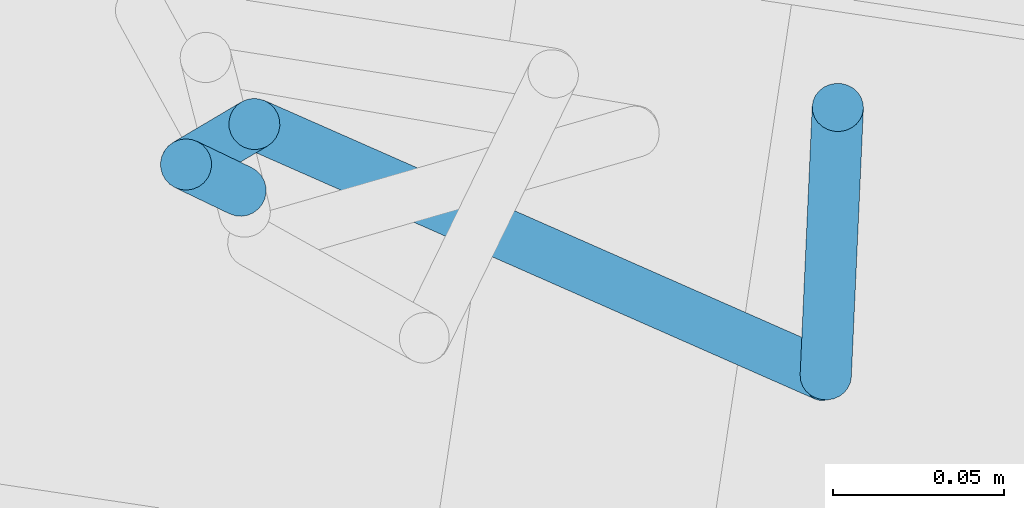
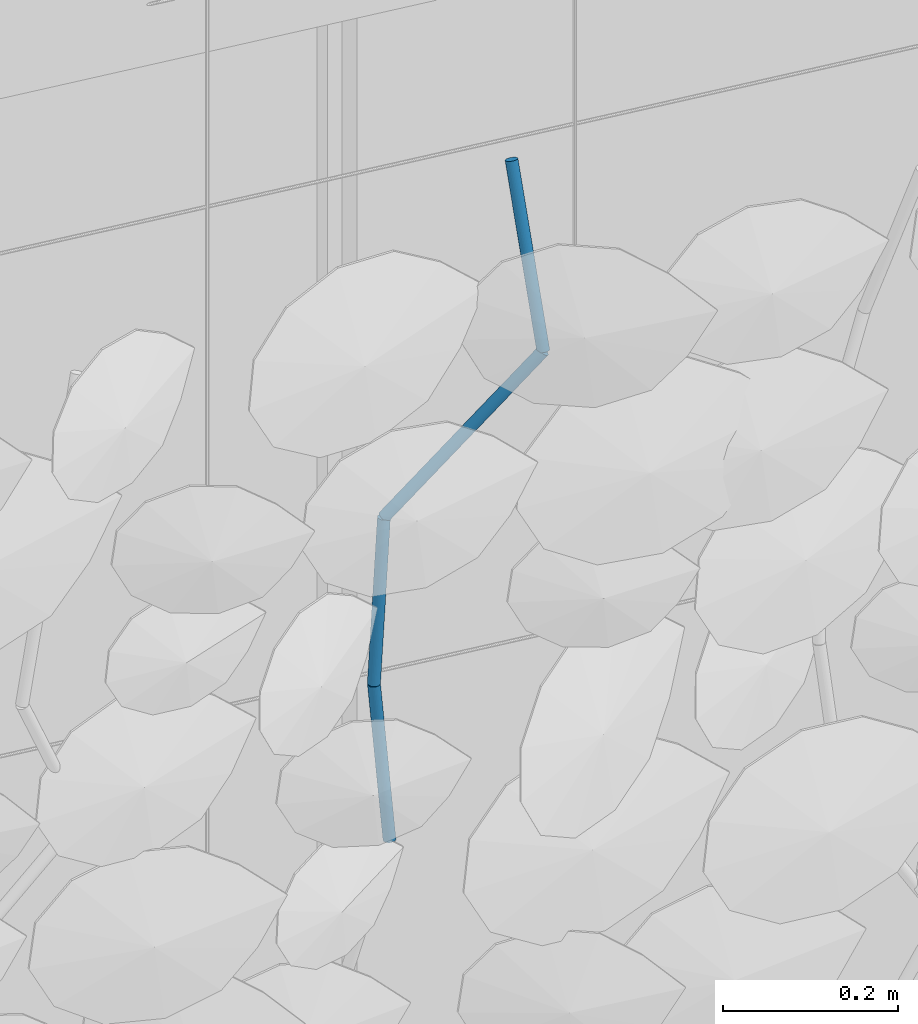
# One storey, part 115 of 131: 4 members, 1 element without a shape of its own.
"""IFC4 building model written with IfcOpenShell, lengths in metres."""

from ifc_helpers import new_model, si_unit, direction, frame, origin_with_axes, place, context, subcontext, project, spatial, circle, extrude, material, material_profile, profile_set, profile_usage, type_object, element, aggregate, save


model = new_model("IFC4")

# Units and contexts
model_context = context("Model", 3, precision=1e-05, world=origin_with_axes(), true_north=direction((0.0, 1.0)))
body_context = subcontext(model_context, "Body", "Model", "MODEL_VIEW")
ifc_project = project(units=[si_unit("VOLUMEUNIT", "CUBIC_METRE"), si_unit("LENGTHUNIT", "METRE"), si_unit("AREAUNIT", "SQUARE_METRE")], contexts=[model_context])

# Site, building, storey
site_placement = place(None, origin_with_axes())
site = spatial("IfcSite", under=ifc_project, at=site_placement, Name="Lares · Rua das Mercês · artigo 4771")
building_placement = place(site_placement, frame((15.0, 9.7, 15.8), z_axis=(0.0, 0.0, 1.0), x_axis=(0.989015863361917, -0.147809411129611, 0.0)))
building = spatial("IfcBuilding", under=site, at=building_placement, Name="Casa Sobreposta")
storey_placement = place(building_placement, origin_with_axes())
storey = spatial("IfcBuildingStorey", under=building, at=storey_placement, Name="00 · Habitação e estacionamento", Elevation=15.8)

# Assembly, members
assembly_placement = place(storey_placement, origin_with_axes())
assembly = element("IfcElementAssembly", 1, at=assembly_placement, inside=storey, Name="Fachada sul e pátio · estrutura e trepadeiras", ObjectType="LIVING_SHADE_TRELLIS", PredefinedType="USERDEFINED")
ifc_material = material(Name="Ramos de trepadeiras", Category="wood")
ifc_material_profile = material_profile(ifc_material, circle(Radius=0.0075))
ifc_profile_set = profile_set([ifc_material_profile], Name="D0.015")
ifc_profile_usage_1 = profile_usage(ifc_profile_set)
member_type = type_object("IfcMemberType", Name="D0.015 / vine_wood", PredefinedType="NOTDEFINED", material=ifc_profile_set)
member_1_placement = place(assembly_placement, frame((17.5916188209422, -1.68966029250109, 1.87253742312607), z_axis=(-0.0775005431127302, 0.0239215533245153, 0.99670528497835), x_axis=(0.294933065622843, 0.955517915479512, 0.0)))
member_1 = element("IfcMember", 2, at=member_1_placement, type_object=member_type, material=ifc_profile_usage_1, Name="Trepadeiras · ramo", context=body_context, shape_type="SweptSolid", body=[
    extrude(circle(Radius=0.0075), origin_with_axes(), (0.0, 0.0, 1.0), 0.218224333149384),
])
ifc_profile_usage_2 = profile_usage(ifc_profile_set)
member_2_placement = place(assembly_placement, frame((17.5747063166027, -1.68444002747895, 2.09004276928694), z_axis=(0.0824483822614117, 0.0670622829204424, 0.994336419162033), x_axis=(0.631006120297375, -0.775777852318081, 0.0)))
member_2 = element("IfcMember", 3, at=member_2_placement, type_object=member_type, material=ifc_profile_usage_2, Name="Trepadeiras · ramo", context=body_context, shape_type="SweptSolid", body=[
    extrude(circle(Radius=0.0075), origin_with_axes(), (0.0, 0.0, 1.0), 0.21874422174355),
])
ifc_profile_usage_3 = profile_usage(ifc_profile_set)
member_3_placement = place(assembly_placement, frame((17.5927414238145, -1.66977054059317, 2.30754811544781), z_axis=(0.620510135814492, -0.169558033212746, 0.76564825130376), x_axis=(-0.263591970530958, -0.964634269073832, 0.0)))
member_3 = element("IfcMember", 4, at=member_3_placement, type_object=member_type, material=ifc_profile_usage_3, Name="Trepadeiras · ramo", context=body_context, shape_type="SweptSolid", body=[
    extrude(circle(Radius=0.0075), origin_with_axes(), (0.0, 0.0, 1.0), 0.284079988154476),
])
ifc_profile_usage_4 = profile_usage(ifc_profile_set)
member_4_placement = place(assembly_placement, frame((17.7690159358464, -1.71793858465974, 2.52505346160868), z_axis=(-0.0350497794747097, 0.338152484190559, 0.940438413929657), x_axis=(0.99467115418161, 0.103098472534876, 0.0)))
member_4 = element("IfcMember", 5, at=member_4_placement, type_object=member_type, material=ifc_profile_usage_4, Name="Trepadeiras · ramo", context=body_context, shape_type="SweptSolid", body=[
    extrude(circle(Radius=0.0075), origin_with_axes(), (0.0, 0.0, 1.0), 0.231280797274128),
])
aggregate(assembly, [member_1, member_2, member_3, member_4])

save(model, "model.ifc")
